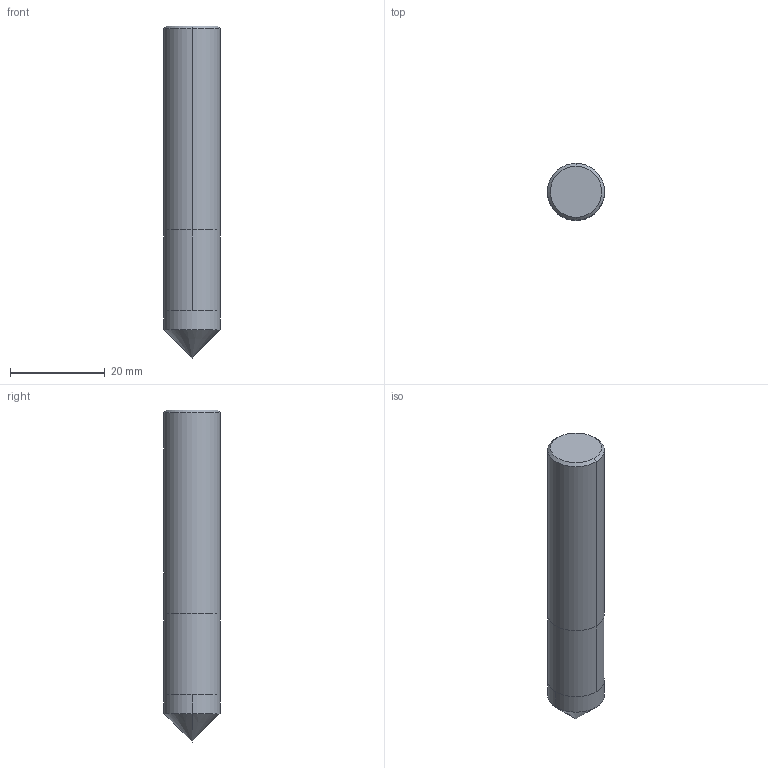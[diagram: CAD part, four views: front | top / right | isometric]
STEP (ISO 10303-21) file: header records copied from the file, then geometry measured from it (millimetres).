
FILE_DESCRIPTION(('no description'),'unknown implementation level');
FILE_NAME('solidKW7nVidqfUsIRwTFdcnu_BOdFyk_1.STP',' ',('CIMSOURCE GmbH'),('CADClick - KiM GmbH - www.kimweb.de'),'unknown preprocess','ACIS','unknown authorization');
FILE_SCHEMA(('automotive_design'));
Length unit declared in the file: millimetre
Products named in the file (2): NOCUT; CUT
Bounding box: 12 x 12 x 70 mm (x, y, z)
Volume: 7456.8 mm3; surface area: 2900.3 mm2
Topology: 2 solids, 2 shells, 28 faces, 67 edges, 41 vertices
Faces by surface type: cylinder 14, plane 8, cone 6
Entity records: 1863 total; most frequent: CARTESIAN_POINT 420, DIRECTION 139, STYLED_ITEM 136, PRESENTATION_STYLE_ASSIGNMENT 136, COLOUR_RGB 136, ORIENTED_EDGE 130, EDGE_CURVE 65, CURVE_STYLE 65
